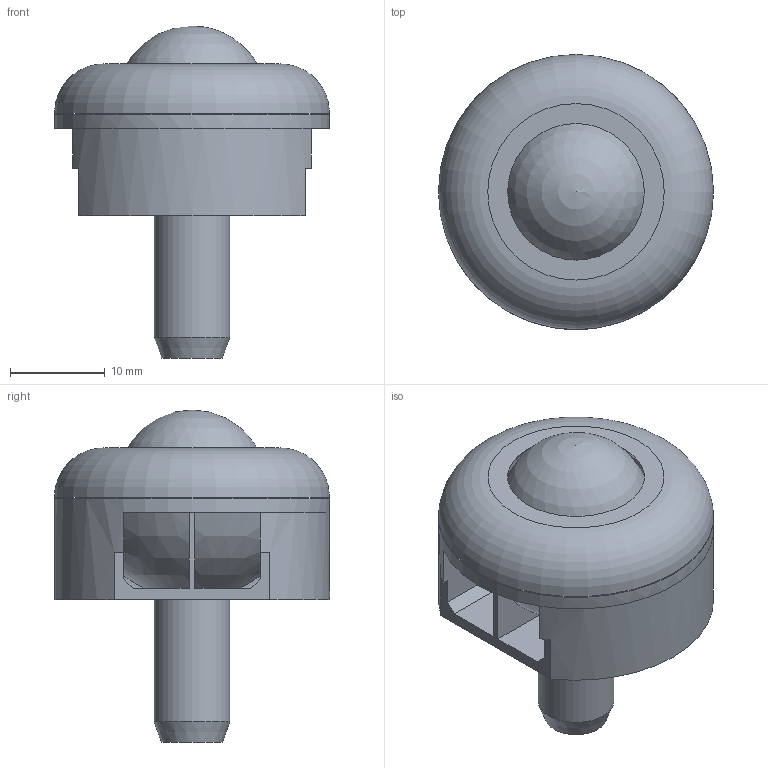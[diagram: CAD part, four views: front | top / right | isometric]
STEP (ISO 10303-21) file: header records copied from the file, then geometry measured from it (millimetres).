
FILE_DESCRIPTION(/* description */ (''),/* implementation_level */ '2;1');
FILE_NAME(/* name */ 'Z:\34-Tei\web 3Dデータ\IP-16型\IP-16JNW.stp',/* time_stamp */ '2015-01-06T10:23:47+09:00',/* author */ ('yamaki'),/* organization */ (''),/* preprocessor_version */ 'ST-DEVELOPER v15.6',/* originating_system */ 'Autodesk Inventor 2015',/* authorisation */ '');
FILE_SCHEMA (('AUTOMOTIVE_DESIGN { 1 0 10303 214 3 1 1 }'));
Length unit declared in the file: millimetre
Products named in the file (1): IP-16JNW
Bounding box: 29 x 29 x 35 mm (x, y, z)
Volume: 8601.6 mm3; surface area: 5456.8 mm2
Topology: 1 solids, 1 shells, 71 faces, 178 edges, 118 vertices
Faces by surface type: plane 47, cylinder 11, sphere 10, cone 2, torus 1
Full cylindrical faces by diameter (mm): 0.6 x1, 4 x1, 8 x1, 16.4 x1, 23.2 x1, 29 x1
Entity records: 2141 total; most frequent: DIRECTION 370, CARTESIAN_POINT 345, ORIENTED_EDGE 322, EDGE_CURVE 161, AXIS2_PLACEMENT_3D 137, VERTEX_POINT 112, LINE 96, VECTOR 96
